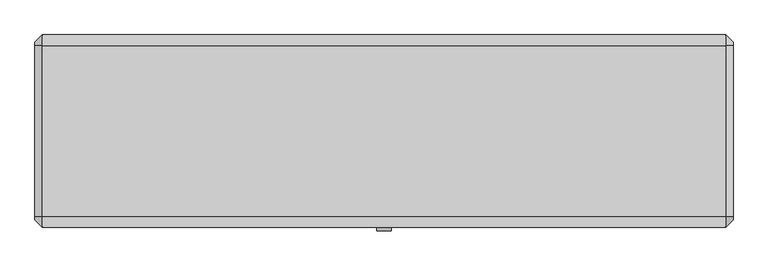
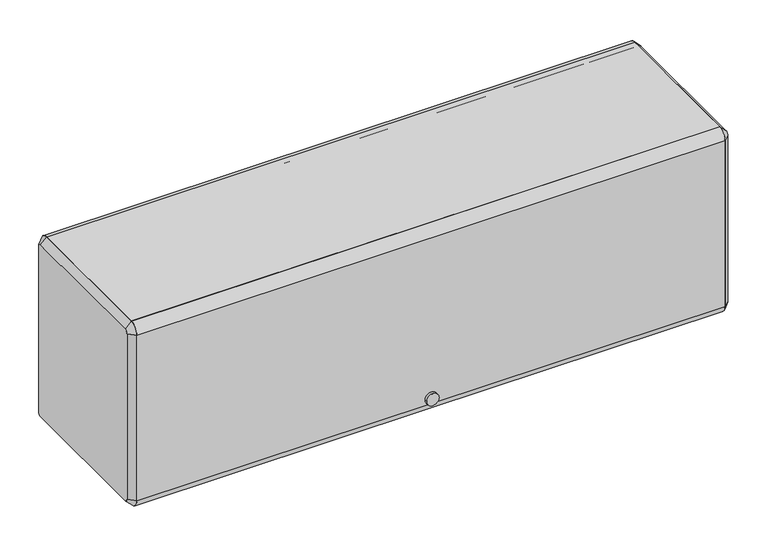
"""IFC4 building model written with IfcOpenShell, lengths in millimetres: furniture geometry."""

from ifc_helpers import new_model, si_unit, point, frame, frame_2d, origin, place, context, project, spatial, polyline, circle_curve, trimmed, segment, composite_curve, outline, extrude, source, transform, mapped, element, save
from ifc_brep_helpers import plane_surface, revolved_surface, advanced_brep


def furniture_da44b8ef(model_context):
    return source(origin(), model_context, "Body", "SolidModel", [
        extrude(outline(composite_curve([segment(polyline([(-136.525, 2155.825), (-136.525, 2168.525), (161.925, 2168.525)]), True, "CONTINUOUS"), segment(trimmed(circle_curve(frame_2d((161.925, 2149.475)), 19.05), [point((161.925, 2168.525))], [point((180.975, 2149.475))], False, "CARTESIAN"), True, "CONTINUOUS"), segment(polyline([(180.975, 2149.475), (168.275, 2149.475)]), True, "CONTINUOUS"), segment(trimmed(circle_curve(frame_2d((161.925, 2149.475)), 6.35), [point((168.275, 2149.475))], [point((161.925, 2155.825))], True, "CARTESIAN"), True, "CONTINUOUS"), segment(polyline([(161.925, 2155.825), (-136.525, 2155.825)]), True, "CONTINUOUS")], self_intersect=False)), frame((-596.9, 0.0, 0.0), z_axis=(1.0, 0.0, 0.0), x_axis=(0.0, 1.0, 0.0)), (0.0, 0.0, 1.0), 1193.8),
        extrude(outline(composite_curve([segment(trimmed(circle_curve(frame_2d((-136.525, 2149.475)), 19.05), [point((-155.575, 2149.475))], [point((-136.525, 2168.525))], False, "CARTESIAN"), True, "CONTINUOUS"), segment(polyline([(-136.525, 2168.525), (-136.525, 2155.825)]), True, "CONTINUOUS"), segment(trimmed(circle_curve(frame_2d((-136.525, 2149.475)), 6.35), [point((-136.525, 2155.825))], [point((-142.875, 2149.475))], True, "CARTESIAN"), True, "CONTINUOUS"), segment(polyline([(-142.875, 2149.475), (-142.875, 1793.875)]), True, "CONTINUOUS"), segment(trimmed(circle_curve(frame_2d((-136.525, 1793.875)), 6.35), [point((-142.875, 1793.875))], [point((-136.525, 1787.525))], True, "CARTESIAN"), True, "CONTINUOUS"), segment(polyline([(-136.525, 1787.525), (-136.525, 1774.825)]), True, "CONTINUOUS"), segment(trimmed(circle_curve(frame_2d((-136.525, 1793.875)), 19.05), [point((-136.525, 1774.825))], [point((-155.575, 1793.875))], False, "CARTESIAN"), True, "CONTINUOUS"), segment(polyline([(-155.575, 1793.875), (-155.575, 2149.475)]), True, "CONTINUOUS")], self_intersect=False)), frame((-596.9, 0.0, 0.0), z_axis=(1.0, 0.0, 0.0), x_axis=(0.0, 1.0, 0.0)), (0.0, 0.0, 1.0), 1193.8),
        extrude(outline(composite_curve([segment(trimmed(circle_curve(frame_2d((1806.5368906, 0.0201199)), 12.7253951), [point((1806.5368906, 12.745515))], [point((1806.5368906, -12.7052752))], False, "CARTESIAN"), True, "CONTINUOUS"), segment(trimmed(circle_curve(frame_2d((1806.5368906, 0.0201199)), 12.7253951), [point((1806.5368906, -12.7052752))], [point((1806.5368906, 12.745515))], False, "CARTESIAN"), True, "CONTINUOUS")], self_intersect=False)), frame((0.0, -161.925, 0.0), z_axis=(0.0, 1.0, 0.0), x_axis=(0.0, 0.0, 1.0)), (0.0, 0.0, 1.0), 6.35),
        extrude(outline(polyline([(-136.525, 1812.925), (161.925, 1812.925), (161.925, 1851.025), (174.625, 1851.025), (174.625, 1847.85), (165.1, 1847.85), (165.1, 1809.75), (-133.35, 1809.75), (-133.35, 1790.7), (-136.525, 1790.7), (-136.525, 1812.925)])), frame((-596.9, 0.0, 0.0), z_axis=(1.0, 0.0, 0.0), x_axis=(0.0, 1.0, 0.0)), (0.0, 0.0, 1.0), 1193.8),
        advanced_brep(
        [(609.6, 161.925, 2155.825), (609.6, -136.525, 2155.825), (609.6, -142.875, 2149.475), (609.6, -142.875, 1793.875), (609.6, -136.525, 1787.525), (609.6, 161.925, 1787.525), (609.6, 168.275, 1793.875), (609.6, 168.275, 2149.475), (596.9, 161.925, 2168.525), (596.9, 180.975, 2149.475), (596.9, 180.975, 1793.875), (596.9, 161.925, 1774.825), (596.9, -136.525, 1774.825), (596.9, -155.575, 1793.875), (596.9, -155.575, 2149.475), (596.9, -136.525, 2168.525)],
        [
            (0, 1),
            (1, 2, circle_curve(frame((609.6, -136.525, 2149.475), z_axis=(1.0, 6.490807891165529e-12, -6.586731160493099e-12), x_axis=(6.586694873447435e-12, 0.0, 1.0)), 6.35)),
            (2, 3),
            (3, 4, circle_curve(frame((609.6, -136.525, 1793.875), z_axis=(1.0, 3.3733016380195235e-12, 3.3679725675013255e-12), x_axis=(3.373343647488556e-12, -1.0, 0.0)), 6.35)),
            (4, 5),
            (5, 6, circle_curve(frame((609.6, 161.925, 1793.875), z_axis=(1.0, 3.3786307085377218e-12, -3.3892888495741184e-12), x_axis=(-3.389358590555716e-12, 0.0, -1.0)), 6.35)),
            (6, 7),
            (7, 0, circle_curve(frame((609.6, 161.925, 2149.475), z_axis=(1.0, 6.482814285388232e-12, 6.39488462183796e-12), x_axis=(-6.48275475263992e-12, 1.0, 0.0)), 6.35)),
            (8, 9, circle_curve(frame((596.9, 161.925, 2149.475), z_axis=(-1.0, -6.482814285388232e-12, -6.39488462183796e-12), x_axis=(-6.48275475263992e-12, 1.0, 0.0)), 19.05)),
            (9, 10),
            (10, 11, circle_curve(frame((596.9, 161.925, 1793.875), z_axis=(-1.0, -3.3786307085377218e-12, 3.3892888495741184e-12), x_axis=(-3.389358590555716e-12, 0.0, -1.0)), 19.05)),
            (11, 12),
            (12, 13, circle_curve(frame((596.9, -136.525, 1793.875), z_axis=(-1.0, -3.3733016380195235e-12, -3.3679725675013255e-12), x_axis=(3.373343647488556e-12, -1.0, 0.0)), 19.05)),
            (13, 14),
            (14, 15, circle_curve(frame((596.9, -136.525, 2149.475), z_axis=(-1.0, -6.490807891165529e-12, 6.586731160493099e-12), x_axis=(6.586694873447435e-12, 0.0, 1.0)), 19.05)),
            (15, 8),
            (15, 1),
            (0, 8),
            (14, 2),
            (13, 3),
            (12, 4),
            (11, 5),
            (10, 6),
            (9, 7),
        ],
        [
            plane_surface(frame((609.6, 12.7, 1971.675), z_axis=(1.0, 0.0, 0.0), x_axis=(0.0, -1.0, 0.0))),
            plane_surface(frame((596.9, 12.7, 1971.675), z_axis=(-1.0, 0.0, 0.0), x_axis=(0.0, -1.0, 0.0))),
            plane_surface(frame((596.9, 12.7, 2168.525), z_axis=(0.7071067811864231, 0.0, 0.7071067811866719), x_axis=(0.0, -1.0, 0.0))),
            revolved_surface(polyline([(609.6000000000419, -136.525, 2155.824999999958), (596.9, -136.525, 2168.525)]), (615.95, -136.525, 2149.475), (-1.0, -6.490807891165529e-12, 6.586731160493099e-12)),
            plane_surface(frame((596.9, -155.575, 1971.675), z_axis=(0.7071067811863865, -0.7071067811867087, 0.0), x_axis=(0.0, 0.0, -1.0))),
            revolved_surface(polyline([(609.6000000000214, -142.87499999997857, 1793.875), (596.9, -155.575, 1793.875)]), (615.95, -136.525, 1793.875), (-1.0, -3.3733016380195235e-12, -3.3679725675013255e-12)),
            plane_surface(frame((596.9, 12.7, 1774.825), z_axis=(0.7071067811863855, 0.0, -0.7071067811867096), x_axis=(0.0, 1.0, 0.0))),
            revolved_surface(polyline([(609.6, 161.925, 1787.525), (596.8999999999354, 161.925, 1774.8249999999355)]), (615.95, 161.925, 1793.875), (-1.0, -3.3786307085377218e-12, 3.3892888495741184e-12)),
            plane_surface(frame((596.9, 180.975, 1971.675), z_axis=(0.7071067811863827, 0.7071067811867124, 0.0), x_axis=(0.0, 0.0, 1.0))),
            revolved_surface(polyline([(609.6, 168.275, 2149.475), (596.8999999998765, 180.9750000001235, 2149.475)]), (615.95, 161.925, 2149.475), (-1.0, -6.482814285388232e-12, -6.39488462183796e-12)),
        ],
        [
            (0, [[1, 2, 3, 4, 5, 6, 7, 8]]),
            (1, [[9, 10, 11, 12, 13, 14, 15, 16]]),
            (2, [[-16, 17, -1, 18]]),
            (3, [[-15, 19, -2, -17]]),
            (4, [[-14, 20, -3, -19]]),
            (5, [[-13, 21, -4, -20]]),
            (6, [[-12, 22, -5, -21]]),
            (7, [[-11, 23, -6, -22]]),
            (8, [[-10, 24, -7, -23]]),
            (9, [[-9, -18, -8, -24]]),
        ],
    ),
        advanced_brep(
        [(-609.6, -136.525, 2155.825), (-609.6, 161.925, 2155.825), (-609.6, 168.275, 2149.475), (-609.6, 168.275, 1793.875), (-609.6, 161.925, 1787.525), (-609.6, -136.525, 1787.525), (-609.6, -142.875, 1793.875), (-609.6, -142.875, 2149.475), (-596.9, -136.525, 2168.525), (-596.9, -155.575, 2149.475), (-596.9, -155.575, 1793.875), (-596.9, -136.525, 1774.825), (-596.9, 161.925, 1774.825), (-596.9, 180.975, 1793.875), (-596.9, 180.975, 2149.475), (-596.9, 161.925, 2168.525)],
        [
            (0, 1),
            (1, 2, circle_curve(frame((-609.6, 161.925, 2149.475), z_axis=(-1.0, 3.365308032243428e-12, 3.453237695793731e-12), x_axis=(3.4532613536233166e-12, 0.0, 1.0)), 6.35)),
            (2, 3),
            (3, 4, circle_curve(frame((-609.6, 161.925, 1793.875), z_axis=(-1.0, 0.0, 0.0), x_axis=(0.0, 1.0, 0.0)), 6.35)),
            (4, 5),
            (5, 6, circle_curve(frame((-609.6, -136.525, 1793.875), z_axis=(-1.0, 0.0, 0.0), x_axis=(0.0, 0.0, -1.0)), 6.35)),
            (6, 7),
            (7, 0, circle_curve(frame((-609.6, -136.525, 2149.475), z_axis=(-1.0, 3.381295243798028e-12, -3.3253400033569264e-12), x_axis=(-3.3813511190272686e-12, -1.0, 0.0)), 6.35)),
            (8, 9, circle_curve(frame((-596.9, -136.525, 2149.475), z_axis=(1.0, -3.381295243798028e-12, 3.3253400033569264e-12), x_axis=(-3.3813511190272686e-12, -1.0, 0.0)), 19.05)),
            (9, 10),
            (10, 11, circle_curve(frame((-596.9, -136.525, 1793.875), z_axis=(1.0, 0.0, 0.0), x_axis=(0.0, 0.0, -1.0)), 19.05)),
            (11, 12),
            (12, 13, circle_curve(frame((-596.9, 161.925, 1793.875), z_axis=(1.0, 0.0, 0.0), x_axis=(0.0, 1.0, 0.0)), 19.05)),
            (13, 14),
            (14, 15, circle_curve(frame((-596.9, 161.925, 2149.475), z_axis=(1.0, -3.365308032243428e-12, -3.453237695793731e-12), x_axis=(3.4532613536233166e-12, 0.0, 1.0)), 19.05)),
            (15, 8),
            (15, 1),
            (0, 8),
            (14, 2),
            (13, 3),
            (12, 4),
            (11, 5),
            (10, 6),
            (9, 7),
        ],
        [
            plane_surface(frame((-609.6, 12.7, 1971.675), z_axis=(-1.0, 0.0, 0.0), x_axis=(0.0, -1.0, 0.0))),
            plane_surface(frame((-596.9, 12.7, 1971.675), z_axis=(1.0, 0.0, 0.0), x_axis=(0.0, -1.0, 0.0))),
            plane_surface(frame((-596.9, 12.7, 2168.525), z_axis=(-0.7071067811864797, 0.0, 0.7071067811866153), x_axis=(0.0, 1.0, 0.0))),
            revolved_surface(polyline([(-609.6, 161.925, 2155.825), (-596.8999999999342, 161.925, 2168.525000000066)]), (-615.95, 161.925, 2149.475), (1.0, -3.365308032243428e-12, -3.453237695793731e-12)),
            plane_surface(frame((-596.9, 180.975, 1971.675), z_axis=(-0.7071067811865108, 0.7071067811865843, 0.0), x_axis=(0.0, 0.0, -1.0))),
            revolved_surface(polyline([(-609.6, 168.275, 1793.875), (-596.9, 180.975, 1793.875)]), (-615.95, 161.925, 1793.875), (1.0, 0.0, 0.0)),
            plane_surface(frame((-596.9, 12.7, 1774.825), z_axis=(-0.7071067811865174, 0.0, -0.7071067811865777), x_axis=(0.0, -1.0, 0.0))),
            revolved_surface(polyline([(-609.6, -136.525, 1787.525), (-596.9, -136.525, 1774.825)]), (-615.95, -136.525, 1793.875), (1.0, 0.0, 0.0)),
            plane_surface(frame((-596.9, -155.575, 1971.675), z_axis=(-0.7071067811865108, -0.7071067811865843, 0.0), x_axis=(0.0, 0.0, 1.0))),
            revolved_surface(polyline([(-609.6000000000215, -142.87499999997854, 2149.475), (-596.9, -155.575, 2149.475)]), (-615.95, -136.525, 2149.475), (1.0, -3.381295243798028e-12, 3.3253400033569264e-12)),
        ],
        [
            (0, [[1, 2, 3, 4, 5, 6, 7, 8]]),
            (1, [[9, 10, 11, 12, 13, 14, 15, 16]]),
            (2, [[-16, 17, -1, 18]]),
            (3, [[-15, 19, -2, -17]]),
            (4, [[-14, 20, -3, -19]]),
            (5, [[-13, 21, -4, -20]]),
            (6, [[-12, 22, -5, -21]]),
            (7, [[-11, 23, -6, -22]]),
            (8, [[-10, 24, -7, -23]]),
            (9, [[-9, -18, -8, -24]]),
        ],
    ),
    ])


if __name__ == "__main__":
    model = new_model("IFC4")
    model_context = context("Model", 3, world=origin())
    ifc_project = project(units=[si_unit("LENGTHUNIT", "METRE", prefix="MILLI")], contexts=[model_context])
    site = spatial("IfcSite", under=ifc_project)
    building = spatial("IfcBuilding", under=site)
    placement = place(None, origin())
    furniture_shape = furniture_da44b8ef(model_context)
    element("IfcFurniture", 1, ObjectType="HermanMiller_ActionOffice_A3352_B-StyleFlipperDoorUnit : 15 1/2\"H x 13\"D x 48\"W", at=placement, inside=building, context=model_context, shape_type="MappedRepresentation", body=[
        mapped(furniture_shape, transform((0.0, 0.0, 0.0), x_axis=(1.0, 0.0, 0.0), y_axis=(0.0, 1.0, 0.0), z_axis=(0.0, 0.0, 1.0))),
    ])
    save(model, "model.ifc")
